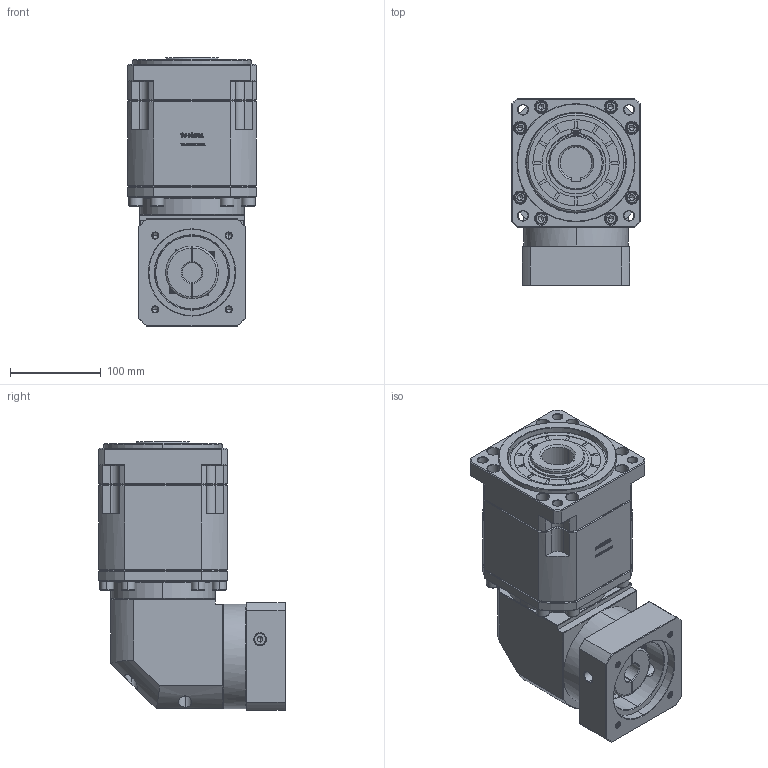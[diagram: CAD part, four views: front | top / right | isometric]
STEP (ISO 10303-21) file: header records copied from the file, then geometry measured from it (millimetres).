
FILE_DESCRIPTION (( 'STEP AP214' ), '1' );
FILE_NAME ('ZBR142A-K35-L3-22-95-115-M8.step', '2023-03-20T04:17:19', ( '' ), ( '' ), 'SwSTEP 2.0', 'SolidWorks 2016', '' );
FILE_SCHEMA (( 'AUTOMOTIVE_DESIGN' ));
Length unit declared in the file: millimetre
Products named in the file (1): ZBR142A-K35-L3-22-95-115-M8
Bounding box: 142 x 205.9 x 295.2 mm (x, y, z)
Volume: 4986074.4 mm3; surface area: 331720.5 mm2
Topology: 6 solids, 6 shells, 3131 faces, 8257 edges, 5293 vertices
Faces by surface type: plane 1645, bspline 586, cylinder 465, cone 391, torus 44
Entity records: 164121 total; most frequent: CARTESIAN_POINT 56729, ORIENTED_EDGE 16410, DIRECTION 12869, EDGE_CURVE 8205, LINE 5529, VECTOR 5529, VERTEX_POINT 5293, AXIS2_PLACEMENT_3D 3670
